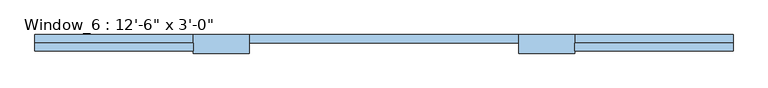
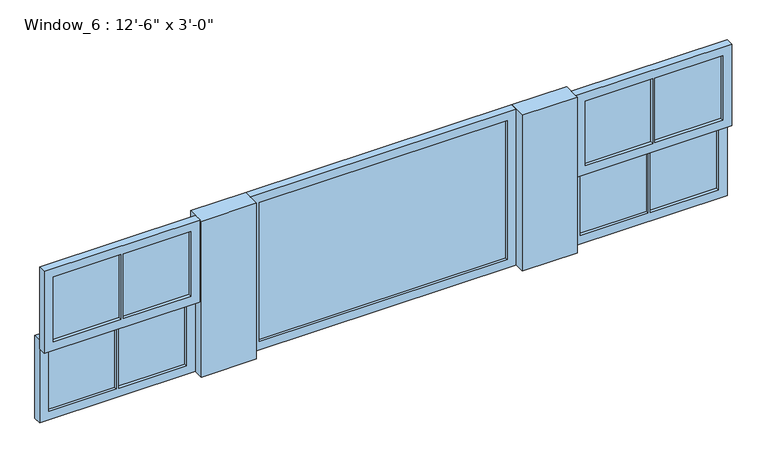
"""IFC4 building model written with IfcOpenShell, lengths in millimetres: window geometry."""

from ifc_helpers import new_model, si_unit, frame, origin, place, context, project, spatial, polyline, outline, extrude, source, transform, mapped, element, save


def window_c7df3585(model_context):
    return source(origin(), model_context, "Body", "SweptSolid", [
        extrude(outline(polyline([(-1479.95, -31.75), (-1479.95, -38.6853592), (-1855.0, -38.6853592), (-1855.0, -31.75), (-1479.95, -31.75)])), frame((0.0, 0.0, 1323.175), z_axis=(0.0, 0.0, 1.0), x_axis=(1.0, 0.0, 0.0)), (0.0, 0.0, 1.0), 379.425),
        extrude(outline(polyline([(1855.0, -31.75), (1855.0, -38.6853592), (1479.15, -38.6853592), (1479.15, -31.75), (1855.0, -31.75)])), frame((0.0, 0.0, 1323.175), z_axis=(0.0, 0.0, 1.0), x_axis=(1.0, 0.0, 0.0)), (0.0, 0.0, 1.0), 379.425),
        extrude(outline(polyline([(-1092.2, -31.75), (-1092.2, -38.6853592), (-1467.25, -38.6853592), (-1467.25, -31.75), (-1092.2, -31.75)])), frame((0.0, 0.0, 1323.175), z_axis=(0.0, 0.0, 1.0), x_axis=(1.0, 0.0, 0.0)), (0.0, 0.0, 1.0), 379.425),
        extrude(outline(polyline([(1466.45, -31.75), (1466.45, -38.6853592), (1092.2, -38.6853592), (1092.2, -31.75), (1466.45, -31.75)])), frame((0.0, 0.0, 1323.175), z_axis=(0.0, 0.0, 1.0), x_axis=(1.0, 0.0, 0.0)), (0.0, 0.0, 1.0), 379.425),
        extrude(outline(polyline([(1752.6, 1041.4), (1273.175, 1041.4), (1273.175, 1905.0), (1752.6, 1905.0), (1752.6, 1041.4)]), holes=[polyline([(1323.175, 1855.0), (1323.175, 1479.15), (1702.6, 1479.15), (1702.6, 1855.0), (1323.175, 1855.0)]), polyline([(1702.6, 1092.2), (1702.6, 1466.45), (1323.175, 1466.45), (1323.175, 1092.2), (1702.6, 1092.2)])]), frame((0.0, -57.15, 0.0), z_axis=(0.0, 1.0, 0.0), x_axis=(0.0, 0.0, 1.0)), (0.0, 0.0, 1.0), 44.45),
        extrude(outline(polyline([(1273.175, -1905.0), (1273.175, -1041.4), (1752.6, -1041.4), (1752.6, -1905.0), (1273.175, -1905.0)]), holes=[polyline([(1323.175, -1855.0), (1702.6, -1855.0), (1702.6, -1479.95), (1323.175, -1479.95), (1323.175, -1855.0)]), polyline([(1323.175, -1092.2), (1323.175, -1467.25), (1702.6, -1467.25), (1702.6, -1092.2), (1323.175, -1092.2)])]), frame((0.0, -57.15, 0.0), z_axis=(0.0, 1.0, 0.0), x_axis=(0.0, 0.0, 1.0)), (0.0, 0.0, 1.0), 44.45),
        extrude(outline(polyline([(736.6, 31.75), (1041.4, 31.75), (1041.4, -69.85), (736.6, -69.85), (736.6, 31.75)])), frame((0.0, 0.0, 838.2), z_axis=(0.0, 0.0, 1.0), x_axis=(1.0, 0.0, 0.0)), (0.0, 0.0, 1.0), 914.4),
        extrude(outline(polyline([(-1041.4, 31.75), (-736.6, 31.75), (-736.6, -69.85), (-1041.4, -69.85), (-1041.4, 31.75)])), frame((0.0, 0.0, 838.2), z_axis=(0.0, 0.0, 1.0), x_axis=(1.0, 0.0, 0.0)), (0.0, 0.0, 1.0), 914.4),
        extrude(outline(polyline([(-686.6, 3.175), (-686.6, 15.875), (685.8, 15.875), (685.8, 3.175), (-686.6, 3.175)])), frame((0.0, 0.0, 888.2), z_axis=(0.0, 0.0, 1.0), x_axis=(1.0, 0.0, 0.0)), (0.0, 0.0, 1.0), 814.4),
        extrude(outline(polyline([(838.2, -736.6), (838.2, 736.6), (1752.6, 736.6), (1752.6, -736.6), (838.2, -736.6)]), holes=[polyline([(888.2, -686.6), (1702.6, -686.6), (1702.6, 685.8), (888.2, 685.8), (888.2, -686.6)])]), frame((0.0, -12.7, 0.0), z_axis=(0.0, 1.0, 0.0), x_axis=(0.0, 0.0, 1.0)), (0.0, 0.0, 1.0), 44.45),
        extrude(outline(polyline([(1479.15, 3.175), (1479.15, 15.875), (1855.0, 15.875), (1855.0, 3.175), (1479.15, 3.175)])), frame((0.0, 0.0, 888.2), z_axis=(0.0, 0.0, 1.0), x_axis=(1.0, 0.0, 0.0)), (0.0, 0.0, 1.0), 384.975),
        extrude(outline(polyline([(-1855.0, 3.175), (-1855.0, 15.875), (-1479.95, 15.875), (-1479.95, 3.175), (-1855.0, 3.175)])), frame((0.0, 0.0, 888.2), z_axis=(0.0, 0.0, 1.0), x_axis=(1.0, 0.0, 0.0)), (0.0, 0.0, 1.0), 384.975),
        extrude(outline(polyline([(-1467.25, 3.175), (-1467.25, 15.875), (-1092.2, 15.875), (-1092.2, 3.175), (-1467.25, 3.175)])), frame((0.0, 0.0, 888.2), z_axis=(0.0, 0.0, 1.0), x_axis=(1.0, 0.0, 0.0)), (0.0, 0.0, 1.0), 384.975),
        extrude(outline(polyline([(1092.2, 3.175), (1092.2, 15.875), (1466.45, 15.875), (1466.45, 3.175), (1092.2, 3.175)])), frame((0.0, 0.0, 888.2), z_axis=(0.0, 0.0, 1.0), x_axis=(1.0, 0.0, 0.0)), (0.0, 0.0, 1.0), 384.975),
        extrude(outline(polyline([(1323.175, 1041.4), (838.2, 1041.4), (838.2, 1905.0), (1323.175, 1905.0), (1323.175, 1041.4)]), holes=[polyline([(888.2, 1092.2), (1273.175, 1092.2), (1273.175, 1466.45), (888.2, 1466.45), (888.2, 1092.2)]), polyline([(1273.175, 1479.15), (1273.175, 1855.0), (888.2, 1855.0), (888.2, 1479.15), (1273.175, 1479.15)])]), frame((0.0, -12.7, 0.0), z_axis=(0.0, 1.0, 0.0), x_axis=(0.0, 0.0, 1.0)), (0.0, 0.0, 1.0), 44.45),
        extrude(outline(polyline([(838.2, -1905.0), (838.2, -1041.4), (1323.175, -1041.4), (1323.175, -1905.0), (838.2, -1905.0)]), holes=[polyline([(888.2, -1855.0), (1273.175, -1855.0), (1273.175, -1479.95), (888.2, -1479.95), (888.2, -1855.0)]), polyline([(1273.175, -1467.25), (1273.175, -1092.2), (888.2, -1092.2), (888.2, -1467.25), (1273.175, -1467.25)])]), frame((0.0, -12.7, 0.0), z_axis=(0.0, 1.0, 0.0), x_axis=(0.0, 0.0, 1.0)), (0.0, 0.0, 1.0), 44.45),
    ])


if __name__ == "__main__":
    model = new_model("IFC4")
    model_context = context("Model", 3, world=origin())
    ifc_project = project(units=[si_unit("LENGTHUNIT", "METRE", prefix="MILLI")], contexts=[model_context])
    site = spatial("IfcSite", under=ifc_project)
    building = spatial("IfcBuilding", under=site)
    placement = place(None, origin())
    window_shape = window_c7df3585(model_context)
    element("IfcWindow", 1, ObjectType="Window_6 : 12'-6\" x 3'-0\"", at=placement, inside=building, context=model_context, shape_type="MappedRepresentation", body=[
        mapped(window_shape, transform((0.0, 0.0, 0.0), x_axis=(1.0, 0.0, 0.0), y_axis=(0.0, 1.0, 0.0), z_axis=(0.0, 0.0, 1.0))),
    ])
    save(model, "model.ifc")
